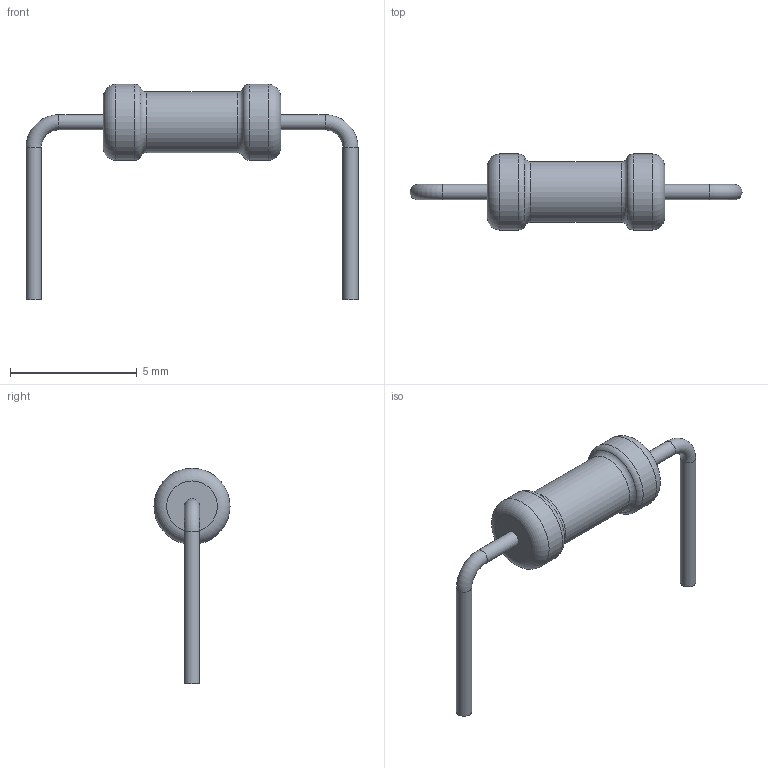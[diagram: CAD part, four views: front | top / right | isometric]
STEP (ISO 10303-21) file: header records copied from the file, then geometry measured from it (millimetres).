
FILE_DESCRIPTION(('STEP AP203'), '1');
FILE_NAME('C2-33-0.25', '', ('UNSPECIFIED'), ('UNSPECIFIED'), 'ASCON STEP Converter 1.6', 'ASCON Math Kernel', '');
FILE_SCHEMA(('CONFIG_CONTROL_DESIGN'));
Length unit declared in the file: millimetre
Bounding box: 13.1 x 3 x 8.5 mm (x, y, z)
Volume: 43.5 mm3; surface area: 105.4 mm2
Topology: 1 solids, 1 shells, 19 faces, 33 edges, 18 vertices
Faces by surface type: torus 8, cylinder 7, plane 4
Full cylindrical faces by diameter (mm): 0.6 x4, 2.4 x1, 3 x2
Entity records: 570 total; most frequent: DIRECTION 76, CARTESIAN_POINT 56, AXIS2_PLACEMENT_3D 38, EDGE_LOOP 36, ORIENTED_EDGE 36, FACE_OUTER_BOUND 30, COLOUR_RGB 20, FILL_AREA_STYLE_COLOUR 20
